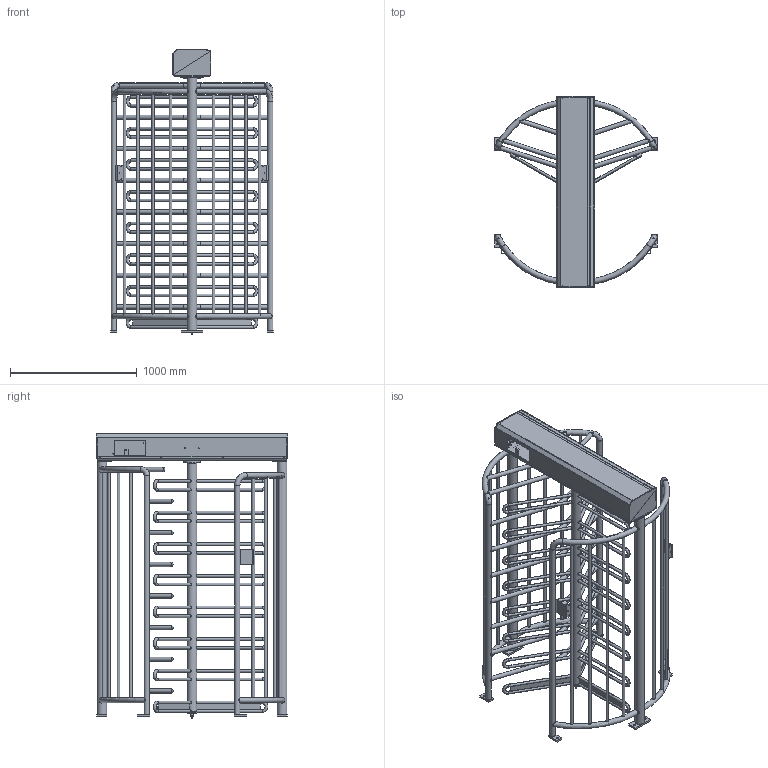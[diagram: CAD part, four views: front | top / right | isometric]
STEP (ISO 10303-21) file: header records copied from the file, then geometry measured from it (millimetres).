
FILE_DESCRIPTION(/* description */ ('Unknown'),/* implementation_level */ '2;1');
FILE_NAME(/* name */ '55870025_00',/* time_stamp */ '2026-04-22T07:31:04+02:00',/* author */ ('Unknown'),/* organization */ ('Unknown'),/* preprocessor_version */ 'ST-DEVELOPER v18.104',/* originating_system */ 'Solid Edge',/* authorisation */ 'Unknown');
FILE_SCHEMA (('AUTOMOTIVE_DESIGN {1 0 10303 214 3 1 1}'));
Products named in the file (1): 558700252
Bounding box: 1288.03 x 1510 x 2252.99 mm (x, y, z)
Volume: 29249624.3 mm3; surface area: 19096155.8 mm2
Topology: 137 solids, 137 shells, 2175 faces, 5566 edges, 3639 vertices
Faces by surface type: plane 1166, cylinder 663, cone 209, torus 137
Full cylindrical faces by diameter (mm): 0.1 x9, 4 x3, 4.2 x4, 4.5 x1, 5.5 x9, 5.9 x1, 6 x6, 6.5 x1, 6.8 x3, 8 x10, 8.16 x1, 8.376 x2, 8.5 x56, 10 x4, 10.106 x12, 10.156 x12, 10.5 x3, 10.7 x1, 12 x12, 12.5 x2, 13 x4, 13.5 x36, 13.6 x4, 14 x4, 14.63 x3, 16 x12, 16.1 x8, 16.6 x2, 17 x8, 18 x56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
Entity records: 91316 total; most frequent: CARTESIAN_POINT 42059, DIRECTION 9538, ORIENTED_EDGE 8654, EDGE_CURVE 4327, AXIS2_PLACEMENT_3D 3761, FACE_BOUND 3627, EDGE_LOOP 3620, VERTEX_POINT 3268
